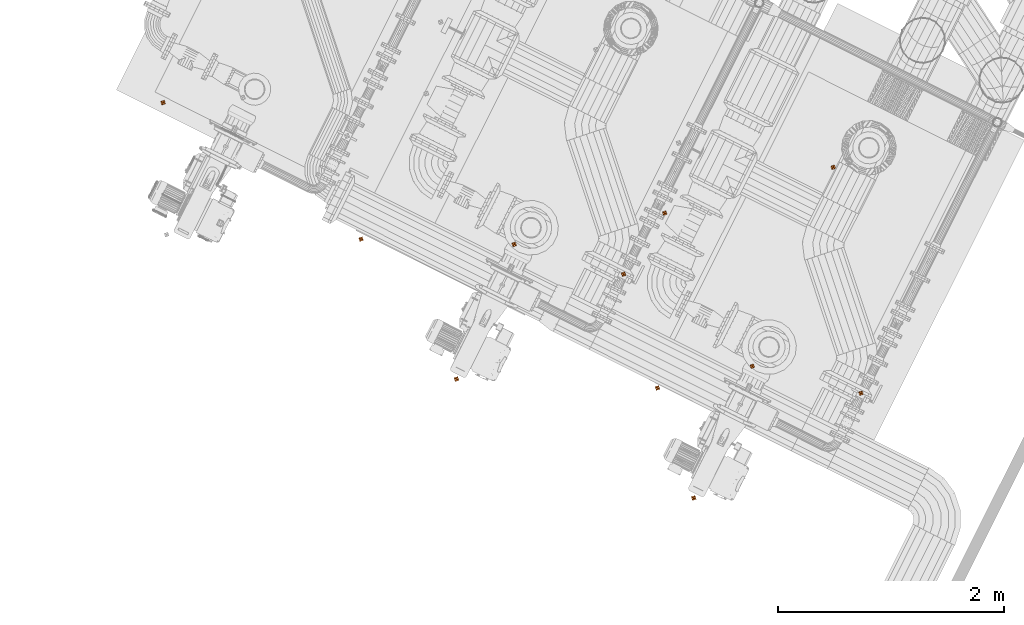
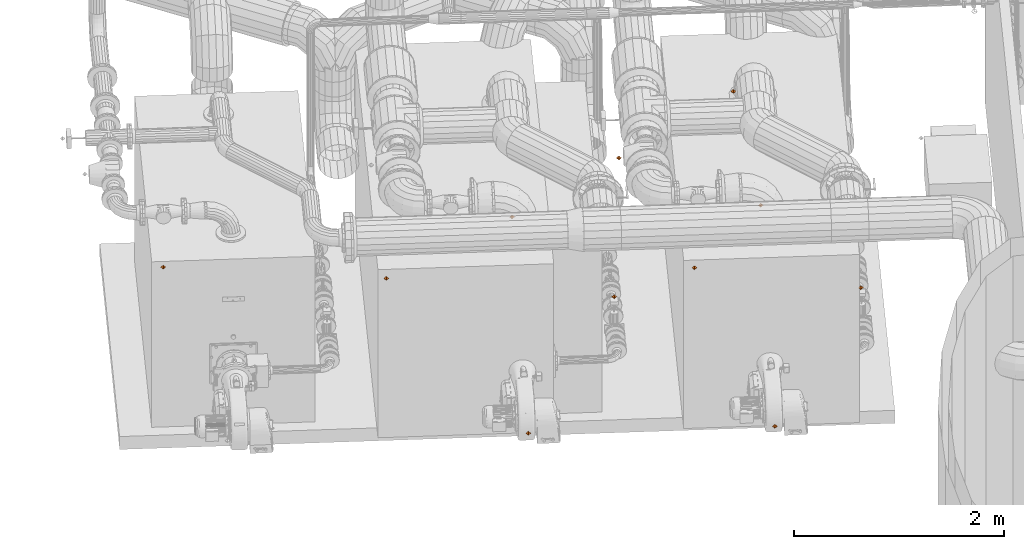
# One storey, part 202 of 206: 11 proxies.
"""IFC2X3 building model written with IfcOpenShell, lengths in metres."""

from ifc_helpers import new_model, si_unit, derived_unit, direction, frame, origin, place, context, subcontext, project, spatial, faceted_brep, type_object, element, save


model = new_model("IFC2X3")

# Units and contexts
model_context = context("Model", 3, precision=5.2338327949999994e-05, world=origin(), true_north=direction((0.0, 1.0)))
body_context = subcontext(model_context, "Body", "Model", "MODEL_VIEW")
ifc_project = project(units=[si_unit("LENGTHUNIT", "METRE"), si_unit("AREAUNIT", "SQUARE_METRE"), si_unit("VOLUMEUNIT", "CUBIC_METRE"), si_unit("MASSUNIT", "GRAM", prefix="KILO"), si_unit("PLANEANGLEUNIT", "RADIAN"), derived_unit("THERMALTRANSMITTANCEUNIT", [(si_unit("MASSUNIT", "GRAM", prefix="KILO"), 1), (si_unit("THERMODYNAMICTEMPERATUREUNIT", "KELVIN"), -1), (si_unit("TIMEUNIT", "SECOND"), -3)])], contexts=[model_context])

# Site, building, storey
site_placement = place(None, frame((0.0, 0.0, 0.0), z_axis=(0.0, 0.0, 1.0), x_axis=(0.8939966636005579, -0.4480736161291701, 0.0)))
site = spatial("IfcSite", under=ifc_project, at=site_placement, Name="Default", CompositionType="ELEMENT")
building_placement = place(site_placement, origin())
building = spatial("IfcBuilding", under=site, at=building_placement, CompositionType="ELEMENT")
storey_placement = place(building_placement, origin())
storey = spatial("IfcBuildingStorey", under=building, at=storey_placement, Name="Erdgeschoss", CompositionType="ELEMENT", Elevation=0.0)

# Proxies
building_element_proxy_type = type_object("IfcBuildingElementProxyType", Name="DirectShape:Gebäudeautomation", PredefinedType="NOTDEFINED")
proxy_1_placement = place(storey_placement, origin())
element("IfcBuildingElementProxy", 1, at=proxy_1_placement, inside=storey, type_object=building_element_proxy_type, Name="DirectShape:Heizkessel 1 Brennersteuerung", context=body_context, shape_type="Brep", body=[
    faceted_brep([(20.77007407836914, 4.9272079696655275, 2.0153184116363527), (20.745075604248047, 4.9272079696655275, 2.0403184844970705), (20.77007407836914, 4.952208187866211, 2.0403184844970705), (20.77007407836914, 4.902207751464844, 2.0403184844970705), (20.79507487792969, 4.9272079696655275, 2.0403184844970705), (20.77007407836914, 4.9272079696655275, 2.0653184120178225)], [[[0, 1, 2]], [[0, 3, 1]], [[0, 4, 3]], [[0, 2, 4]], [[5, 2, 1]], [[5, 1, 3]], [[5, 3, 4]], [[5, 4, 2]]]),
])
proxy_2_placement = place(storey_placement, origin())
element("IfcBuildingElementProxy", 2, at=proxy_2_placement, inside=storey, type_object=building_element_proxy_type, Name="DirectShape:Heizkessel 2 Brennersteuerung", context=body_context, shape_type="Brep", body=[
    faceted_brep([(22.87638504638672, 4.632786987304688, 2.0031871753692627), (22.85138424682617, 4.632786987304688, 2.0281872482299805), (22.87638504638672, 4.657787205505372, 2.0281872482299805), (22.87638504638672, 4.607787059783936, 2.0281872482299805), (22.901385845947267, 4.632786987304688, 2.0281872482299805), (22.87638504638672, 4.632786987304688, 2.0531871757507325)], [[[0, 1, 2]], [[0, 3, 1]], [[0, 4, 3]], [[0, 2, 4]], [[5, 2, 1]], [[5, 1, 3]], [[5, 3, 4]], [[5, 4, 2]]]),
])
proxy_3_placement = place(storey_placement, origin())
element("IfcBuildingElementProxy", 3, at=proxy_3_placement, inside=storey, type_object=building_element_proxy_type, Name="DirectShape:Heizkessel 2 Gasmengenzähler", context=body_context, shape_type="Brep", body=[
    faceted_brep([(25.091194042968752, 5.395429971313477, 1.1662764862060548), (25.066193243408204, 5.395429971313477, 1.1912764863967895), (25.091194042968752, 5.4204301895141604, 1.1912764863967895), (25.091194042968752, 5.370429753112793, 1.1912764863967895), (25.116192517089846, 5.395429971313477, 1.1912764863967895), (25.091194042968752, 5.395429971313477, 1.2162765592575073)], [[[0, 1, 2]], [[0, 3, 1]], [[0, 4, 3]], [[0, 2, 4]], [[5, 2, 1]], [[5, 1, 3]], [[5, 3, 4]], [[5, 4, 2]]]),
])
proxy_4_placement = place(storey_placement, origin())
element("IfcBuildingElementProxy", 4, at=proxy_4_placement, inside=storey, type_object=building_element_proxy_type, Name="DirectShape:Heizkessel 2 Brennermotor", context=body_context, shape_type="Brep", body=[
    faceted_brep([(24.18529352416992, 3.9037463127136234, 0.6617164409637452), (24.160292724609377, 3.9037463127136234, 0.686716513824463), (24.18529352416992, 3.928746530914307, 0.686716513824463), (24.18529352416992, 3.8787463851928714, 0.686716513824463), (24.21029432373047, 3.9037463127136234, 0.686716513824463), (24.18529352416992, 3.9037463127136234, 0.7117165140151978)], [[[0, 1, 2]], [[0, 3, 1]], [[0, 4, 3]], [[0, 2, 4]], [[5, 2, 1]], [[5, 1, 3]], [[5, 3, 4]], [[5, 4, 2]]]),
])
proxy_5_placement = place(storey_placement, origin())
element("IfcBuildingElementProxy", 5, at=proxy_5_placement, inside=storey, type_object=building_element_proxy_type, Name="DirectShape:Heizkessel 2 Rücklauffühler", context=body_context, shape_type="Brep", body=[
    faceted_brep([(24.107558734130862, 5.197557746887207, 2.2703410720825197), (24.082557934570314, 5.197557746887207, 2.2953411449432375), (24.107558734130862, 5.222557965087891, 2.2953411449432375), (24.107558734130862, 5.172558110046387, 2.2953411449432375), (24.132557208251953, 5.197557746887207, 2.2953411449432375), (24.107558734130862, 5.197557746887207, 2.3203410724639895)], [[[0, 1, 2]], [[0, 3, 1]], [[0, 4, 3]], [[0, 2, 4]], [[5, 2, 1]], [[5, 1, 3]], [[5, 3, 4]], [[5, 4, 2]]]),
])
proxy_6_placement = place(storey_placement, origin())
element("IfcBuildingElementProxy", 6, at=proxy_6_placement, inside=storey, type_object=building_element_proxy_type, Name="DirectShape:Heizkessel 3 Brennersteuerung", context=body_context, shape_type="Brep", body=[
    faceted_brep([(25.810068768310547, 4.630404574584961, 2.0072016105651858), (25.785067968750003, 4.630404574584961, 2.0322016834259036), (25.810068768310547, 4.655404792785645, 2.0322016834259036), (25.810068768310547, 4.605404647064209, 2.0322016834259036), (25.83506724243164, 4.630404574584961, 2.0322016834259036), (25.810068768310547, 4.630404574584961, 2.0572016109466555)], [[[0, 1, 2]], [[0, 3, 1]], [[0, 4, 3]], [[0, 2, 4]], [[5, 2, 1]], [[5, 1, 3]], [[5, 3, 4]], [[5, 4, 2]]]),
])
proxy_7_placement = place(storey_placement, origin())
element("IfcBuildingElementProxy", 7, at=proxy_7_placement, inside=storey, type_object=building_element_proxy_type, Name="DirectShape:Heizkessel 3 Vorlauffühler", context=body_context, shape_type="Brep", body=[
    faceted_brep([(26.324653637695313, 7.071823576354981, 2.325489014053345), (26.29965516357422, 7.071823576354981, 2.350488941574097), (26.324653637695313, 7.0968237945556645, 2.350488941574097), (26.324653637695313, 7.046823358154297, 2.350488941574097), (26.34965443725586, 7.071823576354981, 2.350488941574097), (26.324653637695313, 7.071823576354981, 2.3754890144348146)], [[[0, 1, 2]], [[0, 3, 1]], [[0, 4, 3]], [[0, 2, 4]], [[5, 2, 1]], [[5, 1, 3]], [[5, 3, 4]], [[5, 4, 2]]]),
])
proxy_8_placement = place(storey_placement, origin())
element("IfcBuildingElementProxy", 8, at=proxy_8_placement, inside=storey, type_object=building_element_proxy_type, Name="DirectShape:Heizkessel 3 Gasmengenzähler", context=body_context, shape_type="Brep", body=[
    faceted_brep([(27.439064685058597, 5.395429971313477, 1.1733694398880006), (27.414066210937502, 5.395429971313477, 1.1983694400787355), (27.439064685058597, 5.4204301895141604, 1.1983694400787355), (27.439064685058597, 5.370429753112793, 1.1983694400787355), (27.46406548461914, 5.395429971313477, 1.1983694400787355), (27.439064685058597, 5.395429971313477, 1.2233693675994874)], [[[0, 1, 2]], [[0, 3, 1]], [[0, 4, 3]], [[0, 2, 4]], [[5, 2, 1]], [[5, 1, 3]], [[5, 3, 4]], [[5, 4, 2]]]),
])
proxy_9_placement = place(storey_placement, origin())
element("IfcBuildingElementProxy", 9, at=proxy_9_placement, inside=storey, type_object=building_element_proxy_type, Name="DirectShape:Heizkessel 3 Brennermotor", context=body_context, shape_type="Brep", body=[
    faceted_brep([(26.532864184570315, 3.9037463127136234, 0.6456585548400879), (26.507863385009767, 3.9037463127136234, 0.6706586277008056), (26.532864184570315, 3.928746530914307, 0.6706586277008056), (26.532864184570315, 3.8787463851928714, 0.6706586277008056), (26.55786265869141, 3.9037463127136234, 0.6706586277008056), (26.532864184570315, 3.9037463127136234, 0.6956586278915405)], [[[0, 1, 2]], [[0, 3, 1]], [[0, 4, 3]], [[0, 2, 4]], [[5, 2, 1]], [[5, 1, 3]], [[5, 3, 4]], [[5, 4, 2]]]),
])
proxy_10_placement = place(storey_placement, origin())
element("IfcBuildingElementProxy", 10, at=proxy_10_placement, inside=storey, type_object=building_element_proxy_type, Name="DirectShape:Heizkessel 3 Pumpe", context=body_context, shape_type="Brep", body=[
    faceted_brep([(25.173935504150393, 6.04127020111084, 2.3213937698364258), (25.1489370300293, 6.04127020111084, 2.3463938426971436), (25.173935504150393, 6.0662704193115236, 2.3463938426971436), (25.173935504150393, 6.016269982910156, 2.3463938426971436), (25.198936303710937, 6.04127020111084, 2.3463938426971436), (25.173935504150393, 6.04127020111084, 2.3713937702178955)], [[[0, 1, 2]], [[0, 3, 1]], [[0, 4, 3]], [[0, 2, 4]], [[5, 2, 1]], [[5, 1, 3]], [[5, 3, 4]], [[5, 4, 2]]]),
])
proxy_11_placement = place(storey_placement, origin())
element("IfcBuildingElementProxy", 11, at=proxy_11_placement, inside=storey, type_object=building_element_proxy_type, Name="DirectShape:Heizkessel 3 Rücklauffühler", context=body_context, shape_type="Brep", body=[
    faceted_brep([(26.473546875, 5.177474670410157, 2.3219928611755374), (26.44854840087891, 5.177474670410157, 2.3469927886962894), (26.473546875, 5.202474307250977, 2.3469927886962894), (26.473546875, 5.152474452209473, 2.3469927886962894), (26.498547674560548, 5.177474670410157, 2.3469927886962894), (26.473546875, 5.177474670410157, 2.371992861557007)], [[[0, 1, 2]], [[0, 3, 1]], [[0, 4, 3]], [[0, 2, 4]], [[5, 2, 1]], [[5, 1, 3]], [[5, 3, 4]], [[5, 4, 2]]]),
])

save(model, "model.ifc")
